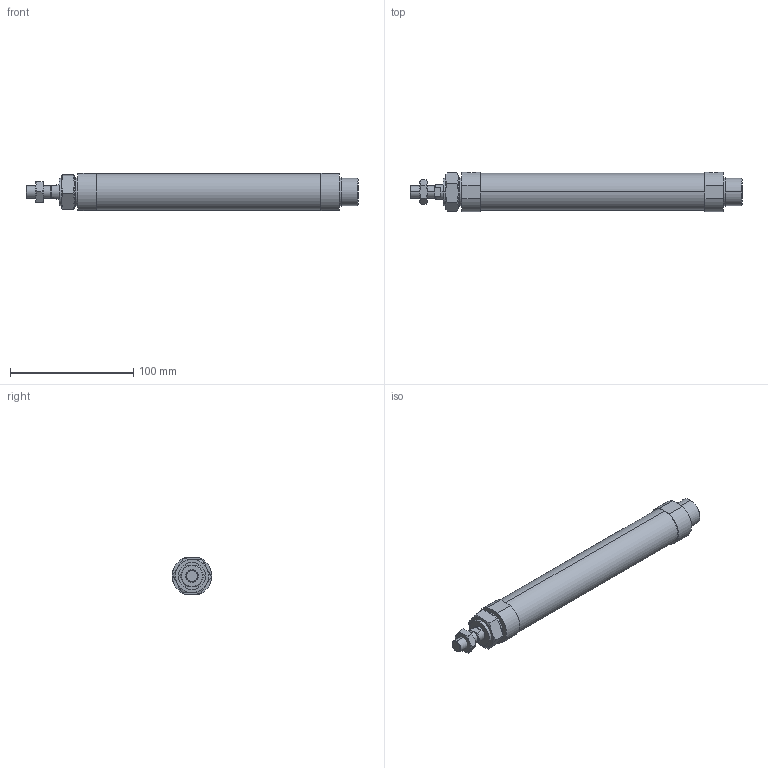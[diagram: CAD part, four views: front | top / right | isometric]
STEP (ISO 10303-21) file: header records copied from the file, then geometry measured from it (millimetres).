
FILE_DESCRIPTION (( 'STEP AP203' ), '1' );
FILE_NAME ('J#2-25-150-N.STEP', '2016-03-08T07:27:55', ( '' ), ( '' ), 'SwSTEP 2.0', 'SolidWorks 2014', '' );
FILE_SCHEMA (( 'CONFIG_CONTROL_DESIGN' ));
Length unit declared in the file: millimetre
Products named in the file (4): J#2-25-150-N; J#2-25-150
Assembly tree (3 placements, depth 2):
  J#2-25-150-N
    J#2-25-150
    (unnamed)
    (unnamed)
Bounding box: 269 x 32 x 30 mm (x, y, z)
Volume: 167655.3 mm3; surface area: 29079.5 mm2
Topology: 3 solids, 3 shells, 97 faces, 214 edges, 126 vertices
Faces by surface type: plane 37, cylinder 26, torus 24, cone 10
Entity records: 3360 total; most frequent: CARTESIAN_POINT 879, DIRECTION 442, ORIENTED_EDGE 420, EDGE_CURVE 210, AXIS2_PLACEMENT_3D 185, VERTEX_POINT 126, EDGE_LOOP 108, ADVANCED_FACE 97
